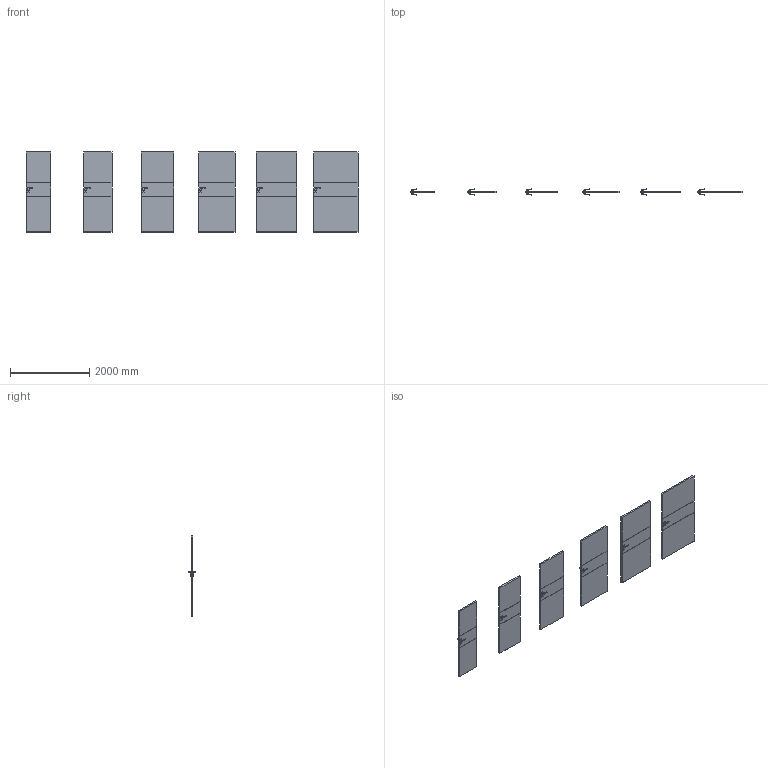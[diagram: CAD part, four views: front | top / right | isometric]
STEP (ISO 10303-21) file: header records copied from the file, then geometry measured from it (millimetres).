
FILE_DESCRIPTION(/* description */ (''),/* implementation_level */ '2;1');
FILE_NAME(/* name */ '049989_A_2-Skrzydło LEVEL model C.2_ polska norma _PN__ bezprzylgowe..stp',/* time_stamp */ '2024-12-03T08:14:04+01:00',/* author */ (''),/* organization */ (''),/* preprocessor_version */ 'ST-DEVELOPER v16',/* originating_system */ 'SIEMENS PLM Software NX 11.0',/* authorisation */ '');
FILE_SCHEMA (('AUTOMOTIVE_DESIGN { 1 0 10303 214 3 1 1 1 }'));
Length unit declared in the file: millimetre
Products named in the file (1): bkni6928A3D5wozt
Bounding box: 8368 x 153.27 x 2017 mm (x, y, z)
Volume: 413447114.7 mm3; surface area: 23028266.7 mm2
Topology: 54 solids, 54 shells, 1296 faces, 3036 edges, 1728 vertices
Faces by surface type: plane 672, cylinder 264, bspline 192, sphere 168
Entity records: 42244 total; most frequent: CARTESIAN_POINT 14317, ORIENTED_EDGE 5736, DIRECTION 5438, EDGE_CURVE 2868, AXIS2_PLACEMENT_3D 1825, LINE 1788, VECTOR 1788, VERTEX_POINT 1728
